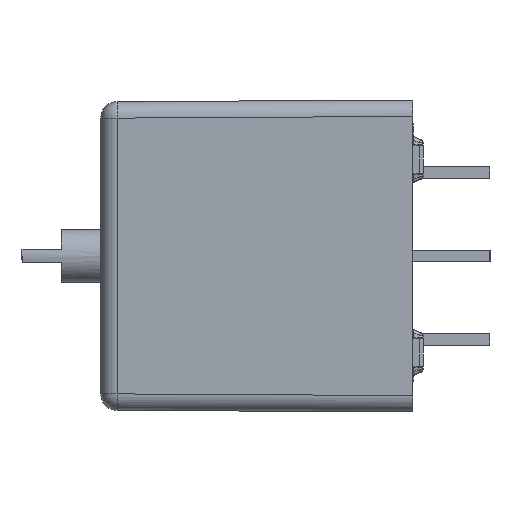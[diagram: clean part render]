
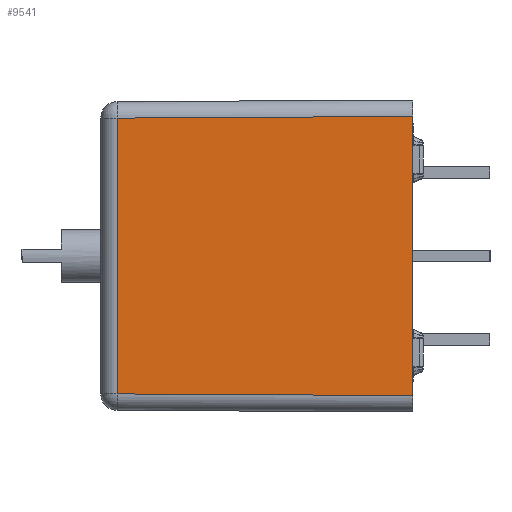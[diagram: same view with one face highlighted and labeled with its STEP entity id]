
A CAD part, left-side view. The second image highlights one B-rep face of the part: STEP entity #9541.
In plain terms, the highlighted planar face has unit normal (-1, 0.006, 0).
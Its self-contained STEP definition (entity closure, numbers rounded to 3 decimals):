
#471 = ORIENTED_EDGE ( 'NONE', *, *, #23207, .T. ) ;
#1390 = CARTESIAN_POINT ( 'NONE',  ( -34., -9.5, -8.5 ) ) ;
#1511 = CARTESIAN_POINT ( 'NONE',  ( -34., -9.5, 8.5 ) ) ;
#3386 = PLANE ( 'NONE',  #18870 ) ;
#3455 = CARTESIAN_POINT ( 'NONE',  ( -33.899, 8.506, 8.399 ) ) ;
#3486 = LINE ( 'NONE', #17487, #19963 ) ;
#3988 = DIRECTION ( 'NONE',  ( -0.006, -1., 0. ) ) ;
#4742 = DIRECTION ( 'NONE',  ( -0.006, -1., -0.006 ) ) ;
#5170 = EDGE_LOOP ( 'NONE', ( #25971, #471, #15012, #15663 ) ) ;
#5486 = VECTOR ( 'NONE', #6586, 1000. ) ;
#5651 = CARTESIAN_POINT ( 'NONE',  ( -33.899, 8.506, 9.5 ) ) ;
#6586 = DIRECTION ( 'NONE',  ( 0.006, 1., -0.006 ) ) ;
#7425 = VERTEX_POINT ( 'NONE', #1390 ) ;
#8867 = LINE ( 'NONE', #11336, #5486 ) ;
#9541 = ADVANCED_FACE ( 'NONE', ( #17533 ), #3386, .T. ) ;
#11213 = LINE ( 'NONE', #25819, #18015 ) ;
#11336 = CARTESIAN_POINT ( 'NONE',  ( -34., -9.506, 8.5 ) ) ;
#12604 = EDGE_CURVE ( 'NONE', #26535, #29469, #8867, .T. ) ;
#14379 = VECTOR ( 'NONE', #24560, 1000. ) ;
#15012 = ORIENTED_EDGE ( 'NONE', *, *, #22729, .T. ) ;
#15276 = VERTEX_POINT ( 'NONE', #27505 ) ;
#15663 = ORIENTED_EDGE ( 'NONE', *, *, #27964, .F. ) ;
#17324 = DIRECTION ( 'NONE',  ( 0., 0., -1. ) ) ;
#17487 = CARTESIAN_POINT ( 'NONE',  ( -34., -9.5, 9.5 ) ) ;
#17533 = FACE_OUTER_BOUND ( 'NONE', #5170, .T. ) ;
#18015 = VECTOR ( 'NONE', #4742, 1000. ) ;
#18870 = AXIS2_PLACEMENT_3D ( 'NONE', #20153, #29527, #3988 ) ;
#19963 = VECTOR ( 'NONE', #17324, 1000. ) ;
#20153 = CARTESIAN_POINT ( 'NONE',  ( -34., -9.5, 9.5 ) ) ;
#22729 = EDGE_CURVE ( 'NONE', #15276, #7425, #11213, .T. ) ;
#23207 = EDGE_CURVE ( 'NONE', #29469, #15276, #27732, .T. ) ;
#24560 = DIRECTION ( 'NONE',  ( 0., 0., -1. ) ) ;
#25819 = CARTESIAN_POINT ( 'NONE',  ( -34., -9.506, -8.5 ) ) ;
#25971 = ORIENTED_EDGE ( 'NONE', *, *, #12604, .T. ) ;
#26535 = VERTEX_POINT ( 'NONE', #1511 ) ;
#27505 = CARTESIAN_POINT ( 'NONE',  ( -33.899, 8.506, -8.399 ) ) ;
#27732 = LINE ( 'NONE', #5651, #14379 ) ;
#27964 = EDGE_CURVE ( 'NONE', #26535, #7425, #3486, .T. ) ;
#29469 = VERTEX_POINT ( 'NONE', #3455 ) ;
#29527 = DIRECTION ( 'NONE',  ( -1., 0.006, 0. ) ) ;
